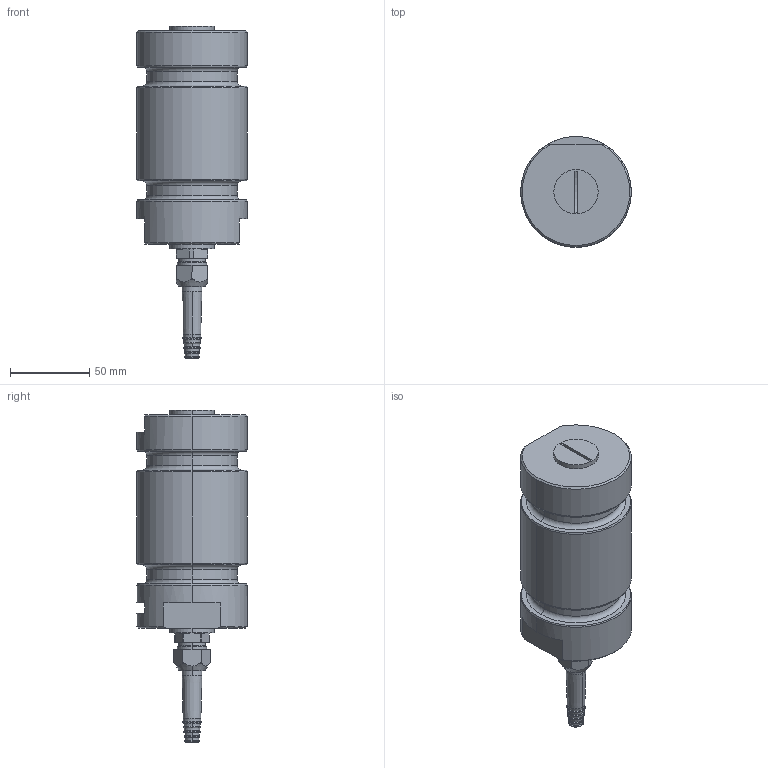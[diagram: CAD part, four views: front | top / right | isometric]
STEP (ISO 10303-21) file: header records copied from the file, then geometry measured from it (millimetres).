
FILE_DESCRIPTION (( 'STEP AP214' ), '1' );
FILE_NAME ('KOSD-40 200 kN Load Cell.STEP', '2021-03-15T10:04:10', ( '' ), ( '' ), 'SwSTEP 2.0', 'SolidWorks 2021', '' );
FILE_SCHEMA (( 'AUTOMOTIVE_DESIGN' ));
Length unit declared in the file: millimetre
Products named in the file (5): KOSD-40 200 kN Load Cell; M26x1.5 - Pg9 - 6369829; 4100959r3; pg 9 kabelförskruvning; M26x1.5 - Lock - 600490r1
Assembly tree (4 placements, depth 2):
  KOSD-40 200 kN Load Cell
    4100959r3
    M26x1.5 - Pg9 - 6369829
    M26x1.5 - Lock - 600490r1
    pg 9 kabelförskruvning
Bounding box: 70 x 70 x 210 mm (x, y, z)
Volume: 497453.8 mm3; surface area: 53273.6 mm2
Topology: 4 solids, 7 shells, 223 faces, 497 edges, 305 vertices
Faces by surface type: cylinder 65, cone 59, plane 55, bspline 26, torus 18
Entity records: 7735 total; most frequent: CARTESIAN_POINT 1600, DIRECTION 1156, ORIENTED_EDGE 990, EDGE_CURVE 495, AXIS2_PLACEMENT_3D 493, VERTEX_POINT 305, CIRCLE 289, EDGE_LOOP 252
